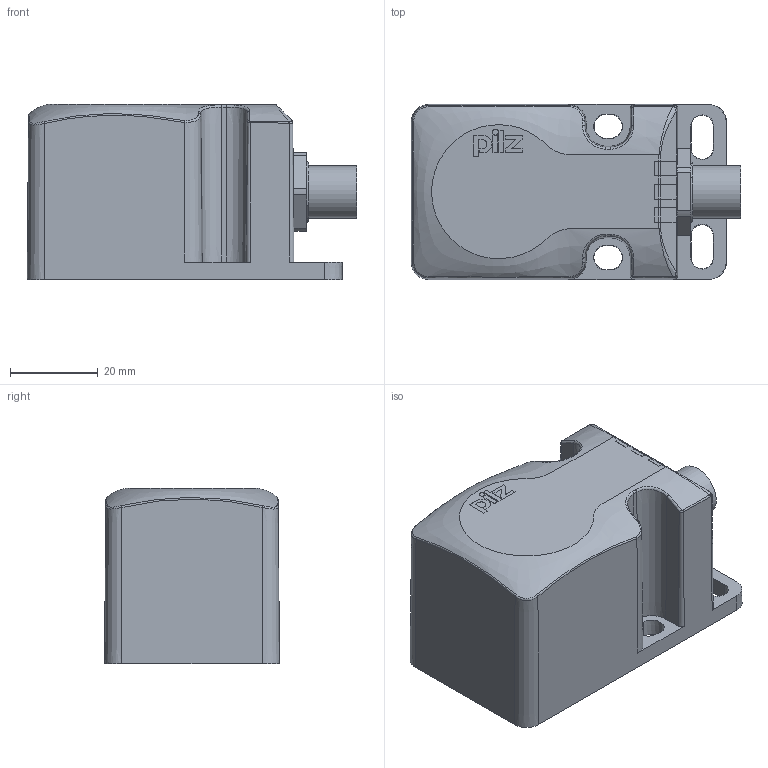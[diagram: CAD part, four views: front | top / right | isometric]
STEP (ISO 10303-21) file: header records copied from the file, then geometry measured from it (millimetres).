
FILE_DESCRIPTION((''),'2;1');
FILE_NAME('E:\Vault Daten\Projektordner\Sensoren\PSENini\Kundendaten\H302981-A_S_72x40x40mm.stp','2011-09-21T09:32:59',('pschmucki'),(''),'Autodesk Inventor 2010','Autodesk Inventor 2010','');
FILE_SCHEMA(('CONFIG_CONTROL_DESIGN'));
Length unit declared in the file: millimetre
Products named in the file (1): H302981_PSENini_Konturvereinfachung_1
Bounding box: 75.33 x 40 x 40 mm (x, y, z)
Volume: 90956.8 mm3; surface area: 15229.9 mm2
Topology: 1 solids, 2 shells, 264 faces, 766 edges, 503 vertices
Faces by surface type: plane 110, bspline 59, cylinder 54, cone 27, torus 14
Full cylindrical faces by diameter (mm): 1.334 x1, 12 x1
Entity records: 11391 total; most frequent: CARTESIAN_POINT 4851, ORIENTED_EDGE 1528, DIRECTION 1151, EDGE_CURVE 764, VERTEX_POINT 503, AXIS2_PLACEMENT_3D 393, VECTOR 365, LINE 365
